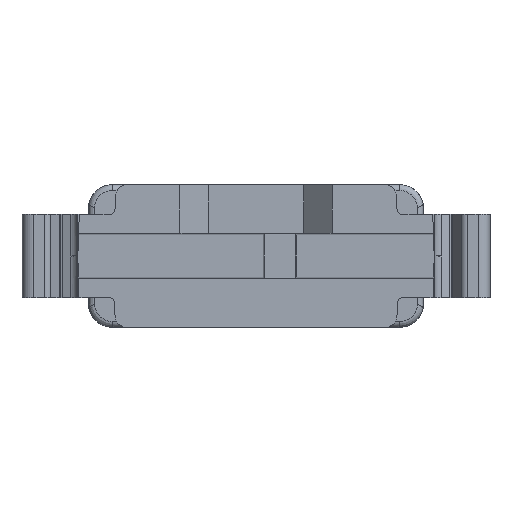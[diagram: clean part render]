
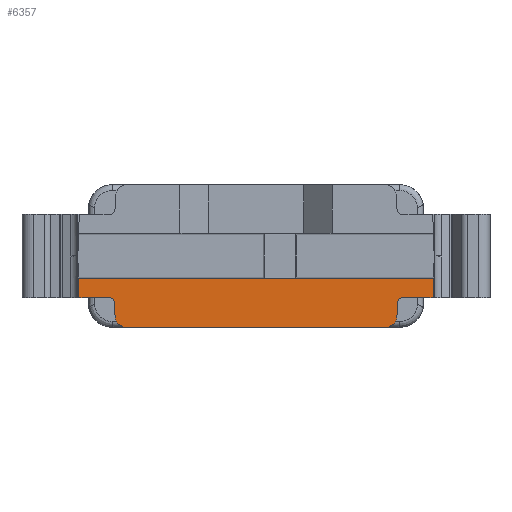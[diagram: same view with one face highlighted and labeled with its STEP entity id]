
A CAD part, left-side view. The second image highlights one B-rep face of the part: STEP entity #6357.
In plain terms, the highlighted planar face has unit normal (-1, 0, 0).
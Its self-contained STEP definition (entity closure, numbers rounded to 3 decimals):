
#243=CIRCLE('',#6832,0.25);
#244=CIRCLE('',#6833,0.5);
#245=CIRCLE('',#6834,0.5);
#246=CIRCLE('',#6835,0.25);
#987=ORIENTED_EDGE('',*,*,#2683,.F.);
#988=ORIENTED_EDGE('',*,*,#2590,.T.);
#989=ORIENTED_EDGE('',*,*,#2897,.T.);
#990=ORIENTED_EDGE('',*,*,#2898,.T.);
#991=ORIENTED_EDGE('',*,*,#2891,.T.);
#992=ORIENTED_EDGE('',*,*,#2899,.T.);
#993=ORIENTED_EDGE('',*,*,#2806,.T.);
#994=ORIENTED_EDGE('',*,*,#2900,.T.);
#995=ORIENTED_EDGE('',*,*,#2895,.F.);
#996=ORIENTED_EDGE('',*,*,#2901,.T.);
#997=ORIENTED_EDGE('',*,*,#2902,.F.);
#998=ORIENTED_EDGE('',*,*,#2611,.T.);
#2590=EDGE_CURVE('',#3561,#3560,#4179,.T.);
#2611=EDGE_CURVE('',#3574,#3579,#4198,.T.);
#2683=EDGE_CURVE('',#3561,#3579,#4213,.T.);
#2806=EDGE_CURVE('',#3769,#3768,#4291,.T.);
#2891=EDGE_CURVE('',#3836,#3837,#4347,.F.);
#2895=EDGE_CURVE('',#3838,#3839,#4351,.F.);
#2897=EDGE_CURVE('',#3560,#3840,#4353,.T.);
#2898=EDGE_CURVE('',#3840,#3836,#243,.T.);
#2899=EDGE_CURVE('',#3837,#3769,#244,.F.);
#2900=EDGE_CURVE('',#3768,#3839,#245,.F.);
#2901=EDGE_CURVE('',#3838,#3841,#246,.T.);
#2902=EDGE_CURVE('',#3574,#3841,#4354,.T.);
#3560=VERTEX_POINT('',#9133);
#3561=VERTEX_POINT('',#9135);
#3574=VERTEX_POINT('',#9168);
#3579=VERTEX_POINT('',#9177);
#3768=VERTEX_POINT('',#9710);
#3769=VERTEX_POINT('',#9712);
#3836=VERTEX_POINT('',#9944);
#3837=VERTEX_POINT('',#9945);
#3838=VERTEX_POINT('',#9950);
#3839=VERTEX_POINT('',#9952);
#3840=VERTEX_POINT('',#9956);
#3841=VERTEX_POINT('',#9961);
#4179=LINE('',#9134,#4709);
#4198=LINE('',#9178,#4728);
#4213=LINE('',#9455,#4743);
#4291=LINE('',#9711,#4821);
#4347=LINE('',#9943,#4877);
#4351=LINE('',#9951,#4881);
#4353=LINE('',#9955,#4883);
#4354=LINE('',#9962,#4884);
#4709=VECTOR('',#7360,1000.);
#4728=VECTOR('',#7391,1000.);
#4743=VECTOR('',#7424,1000.);
#4821=VECTOR('',#7602,1000.);
#4877=VECTOR('',#7728,1000.);
#4881=VECTOR('',#7734,1000.);
#4883=VECTOR('',#7738,1000.);
#4884=VECTOR('',#7747,1000.);
#5288=EDGE_LOOP('',(#987,#988,#989,#990,#991,#992,#993,#994,#995,#996,#997,
#998));
#5726=FACE_BOUND('',#5288,.T.);
#6142=PLANE('',#6831);
#6357=ADVANCED_FACE('',(#5726),#6142,.F.);
#6831=AXIS2_PLACEMENT_3D('',#9954,#7736,#7737);
#6832=AXIS2_PLACEMENT_3D('',#9957,#7739,#7740);
#6833=AXIS2_PLACEMENT_3D('',#9958,#7741,#7742);
#6834=AXIS2_PLACEMENT_3D('',#9959,#7743,#7744);
#6835=AXIS2_PLACEMENT_3D('',#9960,#7745,#7746);
#7360=DIRECTION('',(0.,-0.026,-1.));
#7391=DIRECTION('',(0.,-0.026,1.));
#7424=DIRECTION('',(0.,-1.,0.));
#7602=DIRECTION('',(0.,-1.,0.));
#7728=DIRECTION('',(0.,0.026,1.));
#7734=DIRECTION('',(0.,-0.026,1.));
#7736=DIRECTION('',(1.,0.,0.));
#7737=DIRECTION('',(0.,1.,0.));
#7738=DIRECTION('',(0.,-1.,0.));
#7739=DIRECTION('',(1.,0.,0.));
#7740=DIRECTION('',(0.,1.,0.));
#7741=DIRECTION('',(1.,0.,0.));
#7742=DIRECTION('',(0.,1.,0.));
#7743=DIRECTION('',(1.,0.,0.));
#7744=DIRECTION('',(0.,1.,0.));
#7745=DIRECTION('',(1.,0.,0.));
#7746=DIRECTION('',(0.,1.,0.));
#7747=DIRECTION('',(0.,1.,0.));
#9133=CARTESIAN_POINT('',(-3.9,8.454,-1.75));
#9134=CARTESIAN_POINT('',(-3.9,8.5,0.));
#9135=CARTESIAN_POINT('',(-3.9,8.475,-0.958));
#9168=CARTESIAN_POINT('',(-3.9,-6.454,-1.75));
#9177=CARTESIAN_POINT('',(-3.9,-6.475,-0.958));
#9178=CARTESIAN_POINT('',(-3.9,-6.5,0.));
#9455=CARTESIAN_POINT('',(-3.9,7.,-0.958));
#9710=CARTESIAN_POINT('',(-3.9,-4.434,-3.));
#9711=CARTESIAN_POINT('',(-3.9,7.,-3.));
#9712=CARTESIAN_POINT('',(-3.9,6.434,-3.));
#9943=CARTESIAN_POINT('',(-3.9,7.079,2.998));
#9944=CARTESIAN_POINT('',(-3.9,6.948,-1.993));
#9945=CARTESIAN_POINT('',(-3.9,6.934,-2.513));
#9950=CARTESIAN_POINT('',(-3.9,-4.948,-1.993));
#9951=CARTESIAN_POINT('',(-3.9,-5.,0.));
#9952=CARTESIAN_POINT('',(-3.9,-4.934,-2.513));
#9954=CARTESIAN_POINT('',(-3.9,7.,3.));
#9955=CARTESIAN_POINT('',(-3.9,8.5,-1.75));
#9956=CARTESIAN_POINT('',(-3.9,7.198,-1.75));
#9957=CARTESIAN_POINT('',(-3.9,7.198,-2.));
#9958=CARTESIAN_POINT('',(-3.9,6.434,-2.5));
#9959=CARTESIAN_POINT('',(-3.9,-4.434,-2.5));
#9960=CARTESIAN_POINT('',(-3.9,-5.198,-2.));
#9961=CARTESIAN_POINT('',(-3.9,-5.198,-1.75));
#9962=CARTESIAN_POINT('',(-3.9,-6.5,-1.75));
